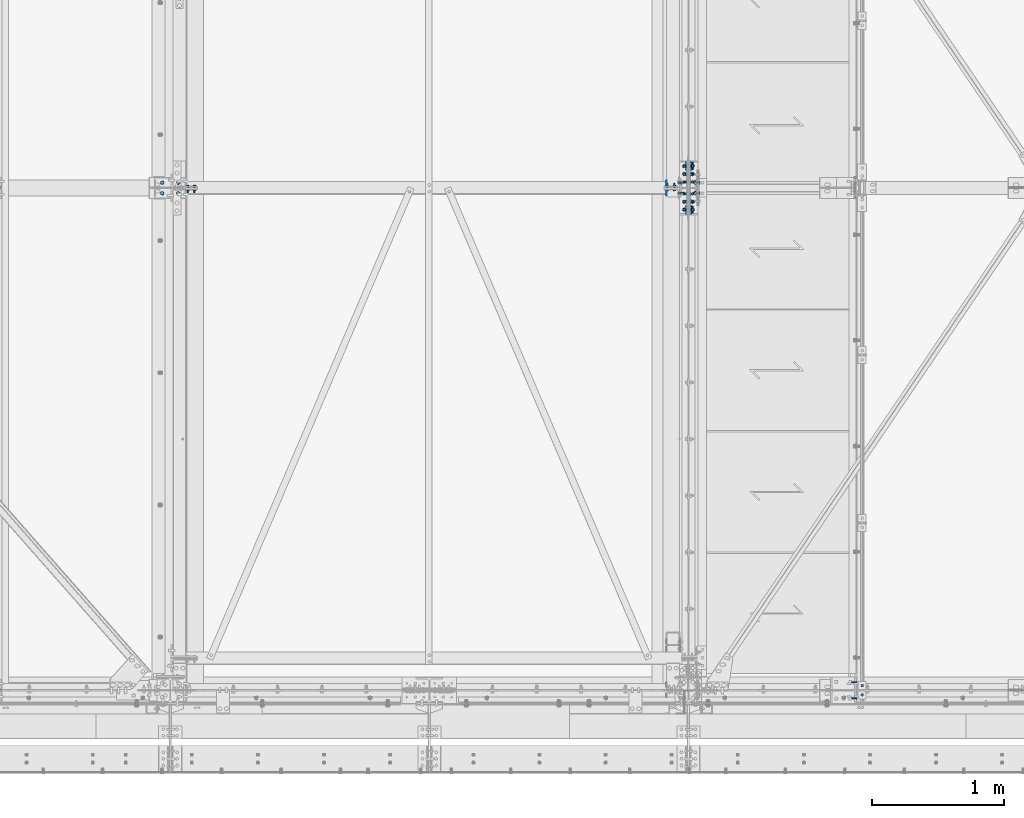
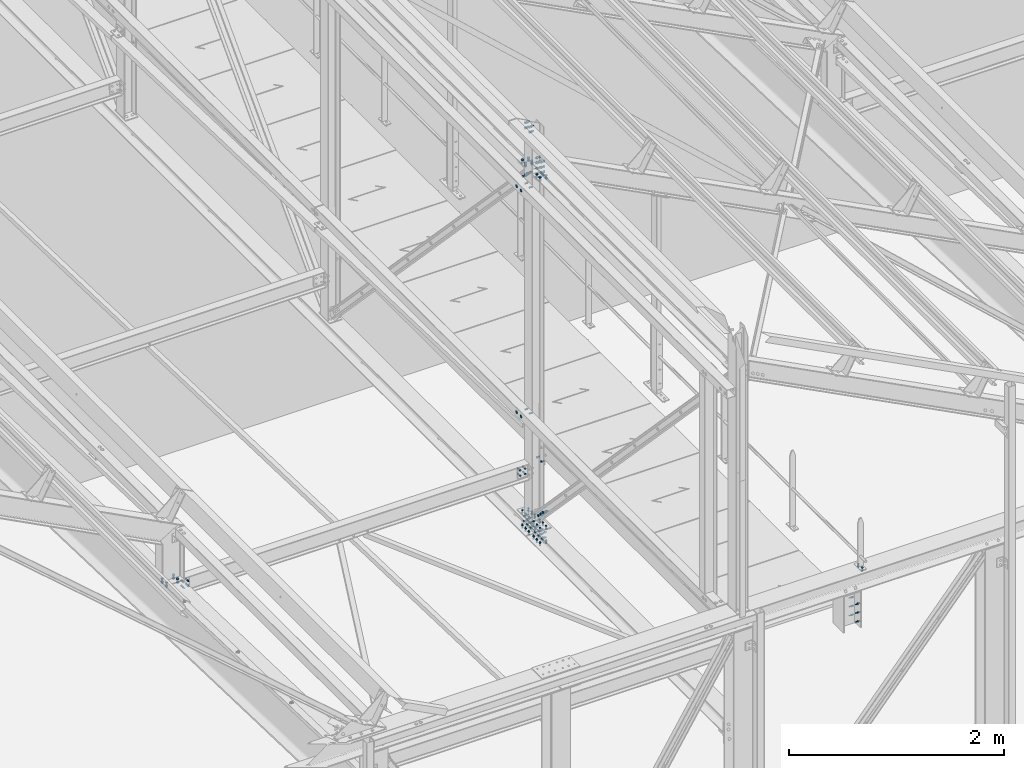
# One storey, part 164 of 362: 23 mechanical fasteners.
"""IFC2X3 building model written with IfcOpenShell, lengths in millimetres."""

from ifc_helpers import new_model, si_unit, frame, origin_with_axes, origin_2d_with_axis, place, context, subcontext, project, spatial, polyline, circle, outline, extrude, source, transform, mapped, material, type_object, element, save


model = new_model("IFC2X3")

# Units and contexts
model_context = context("Model", 3, precision=1e-05, world=origin_with_axes())
body_context = subcontext(model_context, "Body", "Model", "MODEL_VIEW")
ifc_project = project(units=[si_unit("LENGTHUNIT", "METRE", prefix="MILLI"), si_unit("AREAUNIT", "SQUARE_METRE"), si_unit("VOLUMEUNIT", "CUBIC_METRE"), si_unit("MASSUNIT", "GRAM", prefix="KILO"), si_unit("TIMEUNIT", "SECOND"), si_unit("PLANEANGLEUNIT", "RADIAN"), si_unit("SOLIDANGLEUNIT", "STERADIAN"), si_unit("THERMODYNAMICTEMPERATUREUNIT", "DEGREE_CELSIUS"), si_unit("LUMINOUSINTENSITYUNIT", "LUMEN")], contexts=[model_context])

# Site, building, storey
site_placement = place(None, origin_with_axes())
site = spatial("IfcSite", under=ifc_project, at=site_placement, Name="Undefined", CompositionType="ELEMENT")
building_placement = place(site_placement, origin_with_axes())
building = spatial("IfcBuilding", under=site, at=building_placement, Name="Undefined", CompositionType="ELEMENT")
storey_placement = place(building_placement, origin_with_axes())
storey = spatial("IfcBuildingStorey", under=building, at=storey_placement, Name="Undefined", CompositionType="ELEMENT", Elevation=0.0)

# Mechanical fasteners
ifc_material_1 = material(Name="6.8")
mechanical_fastener_type = type_object("IfcMechanicalFastenerType", Name="Bolt assembly")
shared_shape_1 = source(origin_with_axes(), body_context, "Body", "SweptSolid", [
    extrude(circle(Radius=15.0, at=origin_2d_with_axis()), frame((0.0, 0.0, 0.0), z_axis=(0.0, 1.0, 0.0), x_axis=(1.0, 0.0, 0.0)), (0.0, 0.0, 1.0), 4.1),
])
mechanical_fastener_1_placement = place(storey_placement, frame((23303.5000012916, 3800.0, 11070.0), z_axis=(0.0, 1.0, 0.0), x_axis=(0.0, 0.0, 1.0)))
element("IfcMechanicalFastener", 1, at=mechanical_fastener_1_placement, inside=storey, type_object=mechanical_fastener_type, material=ifc_material_1, Name="Bolt assembly", NominalDiameter=30.0, NominalLength=4.0, context=body_context, shape_type="MappedRepresentation", body=[
    mapped(shared_shape_1, transform((0.0, 0.0, 40.0))),
    mapped(shared_shape_1, transform((0.0, 0.0, -40.0))),
])
ifc_material_2 = material(Name="8.8-SB-ZINGUE")
shared_shape_2 = source(origin_with_axes(), body_context, "Body", "SweptSolid", [
    extrude(circle(Radius=9.0, at=origin_2d_with_axis()), frame((0.0, -10.9000000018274, 0.0), z_axis=(0.0, 1.0, 0.0), x_axis=(1.0, 0.0, 0.0)), (0.0, 0.0, 1.0), 6.0),
    extrude(circle(Radius=9.0, at=origin_2d_with_axis()), frame((0.0, 4.9000000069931, 0.0), z_axis=(0.0, 1.0, 0.0), x_axis=(1.0, 0.0, 0.0)), (0.0, 0.0, 1.0), 6.1),
    extrude(circle(Radius=9.0, at=origin_2d_with_axis()), frame((0.0, -3.99999923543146, 0.0), z_axis=(0.0, 1.0, 0.0), x_axis=(1.0, 0.0, 0.0)), (0.0, 0.0, 1.0), 8.0),
    extrude(outline(polyline([(13.85640646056, 0.0), (6.92820323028, 12.0000000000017), (-6.92820323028, 12.0000000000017), (-13.85640646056, 0.0), (-6.92820323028, -12.0000000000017), (6.92820323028, -12.0000000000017), (13.85640646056, 0.0)])), frame((0.0, -21.5600000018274, 0.0), z_axis=(0.0, 1.0, 0.0), x_axis=(1.0, 0.0, 0.0)), (0.0, 0.0, 1.0), 10.56),
    extrude(circle(Radius=8.0, at=origin_2d_with_axis()), frame((0.0, -11.0000000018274, 0.0), z_axis=(0.0, 1.0, 0.0), x_axis=(1.0, 0.0, 0.0)), (0.0, 0.0, 1.0), 50.0),
    extrude(outline(polyline([(15.3344231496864, 0.0), (7.6672115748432, 13.2800000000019), (-7.6672115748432, 13.2800000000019), (-15.3344231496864, 0.0), (-7.6672115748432, -13.2800000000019), (7.6672115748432, -13.2800000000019), (15.3344231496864, 0.0)])), frame((0.0, 11.0000000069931, 0.0), z_axis=(0.0, 1.0, 0.0), x_axis=(1.0, 0.0, 0.0)), (0.0, 0.0, 1.0), 10.56),
])
for number, where, z_axis, x_axis, name in (
    (2, (23470.0, 3903.50267417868, 11127.4311436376), (0.0, -0.723792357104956, -0.690017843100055), (0.0, 0.690017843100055, -0.723792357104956), "Bolt assembly"),
    (3, (23470.0, 3696.49740593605, 7358.56893210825), (0.0, 0.723792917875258, 0.690017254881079), (0.0, -0.690017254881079, 0.723792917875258), "Bolt assembly"),
):
    element("IfcMechanicalFastener", number, at=place(storey_placement, frame(where, z_axis=z_axis, x_axis=x_axis)), inside=storey, type_object=mechanical_fastener_type, material=ifc_material_2, Name=name, NominalDiameter=16.0, NominalLength=50.0, context=body_context, shape_type="MappedRepresentation", body=[
        mapped(shared_shape_2, transform((0.0, 0.0, 0.0))),
        mapped(shared_shape_2, transform((60.0, 0.0, 0.0))),
        mapped(shared_shape_2, transform((120.0, 0.0, 0.0))),
    ])
shared_shape_3 = source(origin_with_axes(), body_context, "Body", "SweptSolid", [
    extrude(circle(Radius=7.0, at=origin_2d_with_axis()), frame((0.0, -0.095374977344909, 0.0), z_axis=(0.0, 1.0, 0.0), x_axis=(1.0, 0.0, 0.0)), (0.0, 0.0, 1.0), 10.1),
    extrude(circle(Radius=7.0, at=origin_2d_with_axis()), frame((0.0, -9.9, 0.0), z_axis=(0.0, 1.0, 0.0), x_axis=(1.0, 0.0, 0.0)), (0.0, 0.0, 1.0), 10.0),
    extrude(outline(polyline([(10.39230484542, 0.0), (5.19615242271, 9.00000000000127), (-5.19615242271, 9.00000000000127), (-10.39230484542, 0.0), (-5.19615242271, -9.00000000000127), (5.19615242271, -9.00000000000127), (10.39230484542, 0.0)])), frame((0.0, -17.92, 0.0), z_axis=(0.0, 1.0, 0.0), x_axis=(1.0, 0.0, 0.0)), (0.0, 0.0, 1.0), 7.92),
    extrude(circle(Radius=6.0, at=origin_2d_with_axis()), frame((0.0, -10.0000010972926, 0.0), z_axis=(0.0, 1.0, 0.0), x_axis=(1.0, 0.0, 0.0)), (0.0, 0.0, 1.0), 40.0),
    extrude(outline(polyline([(11.5008173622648, 0.0), (5.7504086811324, 9.96000000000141), (-5.7504086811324, 9.96000000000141), (-11.5008173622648, 0.0), (-5.7504086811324, -9.96000000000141), (5.7504086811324, -9.96000000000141), (11.5008173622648, 0.0)])), frame((0.0, 10.0046250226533, 0.0), z_axis=(0.0, 1.0, 0.0), x_axis=(1.0, 0.0, 0.0)), (0.0, 0.0, 1.0), 7.92),
])
mechanical_fastener_2_placement = place(storey_placement, frame((24783.9915986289, -34.9999999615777, 8550.00000643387), z_axis=(-1.0, 0.0, 0.0), x_axis=(0.0, 1.0, 0.0)))
element("IfcMechanicalFastener", 4, at=mechanical_fastener_2_placement, inside=storey, type_object=mechanical_fastener_type, material=ifc_material_2, Name="Bolt assembly", NominalDiameter=12.0, NominalLength=40.0, context=body_context, shape_type="MappedRepresentation", body=[
    mapped(shared_shape_3, transform((0.0, 0.0, 0.0))),
    mapped(shared_shape_3, transform((70.0, -2.91038304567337e-11, 2.18278728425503e-10))),
])
shared_shape_4 = source(origin_with_axes(), body_context, "Body", "SweptSolid", [
    extrude(circle(Radius=7.0, at=origin_2d_with_axis()), frame((0.0, -0.100011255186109, 0.0), z_axis=(0.0, 1.0, 0.0), x_axis=(1.0, 0.0, 0.0)), (0.0, 0.0, 1.0), 8.6),
    extrude(circle(Radius=7.0, at=origin_2d_with_axis()), frame((0.0, -6.9, 0.0), z_axis=(0.0, 1.0, 0.0), x_axis=(1.0, 0.0, 0.0)), (0.0, 0.0, 1.0), 7.0),
    extrude(outline(polyline([(10.39230484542, 0.0), (5.19615242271, 9.00000000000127), (-5.19615242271, 9.00000000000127), (-10.39230484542, 0.0), (-5.19615242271, -9.00000000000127), (5.19615242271, -9.00000000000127), (10.39230484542, 0.0)])), frame((0.0, -14.92, 0.0), z_axis=(0.0, 1.0, 0.0), x_axis=(1.0, 0.0, 0.0)), (0.0, 0.0, 1.0), 7.92),
    extrude(circle(Radius=6.0, at=origin_2d_with_axis()), frame((0.0, -7.0, 0.0), z_axis=(0.0, 1.0, 0.0), x_axis=(1.0, 0.0, 0.0)), (0.0, 0.0, 1.0), 30.0),
    extrude(outline(polyline([(11.5008173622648, 0.0), (5.7504086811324, 9.96000000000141), (-5.7504086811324, 9.96000000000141), (-11.5008173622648, 0.0), (-5.7504086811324, -9.96000000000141), (5.7504086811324, -9.96000000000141), (11.5008173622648, 0.0)])), frame((0.0, 8.49999994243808, 0.0), z_axis=(0.0, 1.0, 0.0), x_axis=(1.0, 0.0, 0.0)), (0.0, 0.0, 1.0), 7.92),
])
mechanical_fastener_3_placement = place(storey_placement, frame((23536.5000012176, 3799.99999998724, 7910.00000000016), z_axis=(0.0, -1.0, 0.0), x_axis=(0.0, 0.0, 1.0)))
element("IfcMechanicalFastener", 5, at=mechanical_fastener_3_placement, inside=storey, type_object=mechanical_fastener_type, material=ifc_material_2, Name="Bolt assembly", NominalDiameter=12.0, NominalLength=30.0, context=body_context, shape_type="MappedRepresentation", body=[
    mapped(shared_shape_4, transform((0.0, 0.0, -40.0))),
    mapped(shared_shape_4, transform((0.0, 0.0, 40.0))),
])
shared_shape_5 = source(origin_with_axes(), body_context, "Body", "SweptSolid", [
    extrude(circle(Radius=7.0, at=origin_2d_with_axis()), frame((0.0, 0.0, 0.0), z_axis=(0.0, 1.0, 0.0), x_axis=(1.0, 0.0, 0.0)), (0.0, 0.0, 1.0), 10.1),
    extrude(outline(polyline([(10.39230484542, 0.0), (5.19615242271, 9.00000000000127), (-5.19615242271, 9.00000000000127), (-10.39230484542, 0.0), (-5.19615242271, -9.00000000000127), (5.19615242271, -9.00000000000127), (10.39230484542, 0.0)])), frame((0.0, -7.91999999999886, 0.0), z_axis=(0.0, 1.0, 0.0), x_axis=(1.0, 0.0, 0.0)), (0.0, 0.0, 1.0), 7.92),
    extrude(circle(Radius=6.0, at=origin_2d_with_axis()), frame((0.0, 0.0, 0.0), z_axis=(0.0, 1.0, 0.0), x_axis=(1.0, 0.0, 0.0)), (0.0, 0.0, 1.0), 40.0),
    extrude(outline(polyline([(11.5008173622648, 0.0), (5.7504086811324, 9.96000000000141), (-5.7504086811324, 9.96000000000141), (-11.5008173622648, 0.0), (-5.7504086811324, -9.96000000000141), (5.7504086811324, -9.96000000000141), (11.5008173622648, 0.0)])), frame((0.0, 10.0000000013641, 0.0), z_axis=(0.0, 1.0, 0.0), x_axis=(1.0, 0.0, 0.0)), (0.0, 0.0, 1.0), 7.92),
])
mechanical_fastener_4_placement = place(storey_placement, frame((24736.4916161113, 1.14541762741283e-07, 7990.00000000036), z_axis=(0.0, -1.0, 0.0), x_axis=(0.0, 0.0, 1.0)))
element("IfcMechanicalFastener", 6, at=mechanical_fastener_4_placement, inside=storey, type_object=mechanical_fastener_type, material=ifc_material_2, Name="Bolt assembly", NominalDiameter=12.0, NominalLength=40.0, context=body_context, shape_type="MappedRepresentation", body=[
    mapped(shared_shape_5, transform((0.0, 0.0, -60.0))),
    mapped(shared_shape_5, transform((99.9999999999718, 0.0, -60.0000000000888))),
    mapped(shared_shape_5, transform((199.999999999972, 0.0, -60.0000000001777))),
    mapped(shared_shape_5, transform((0.0, 0.0, 60.0))),
    mapped(shared_shape_5, transform((100.000000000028, 0.0, 59.9999999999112))),
    mapped(shared_shape_5, transform((200.000000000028, 0.0, 59.9999999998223))),
])
shared_shape_6 = source(origin_with_axes(), body_context, "Body", "SweptSolid", [
    extrude(circle(Radius=9.0, at=origin_2d_with_axis()), frame((0.0, -0.0985788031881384, 0.0), z_axis=(0.0, 1.0, 0.0), x_axis=(1.0, 0.0, 0.0)), (0.0, 0.0, 1.0), 17.3),
    extrude(circle(Radius=9.0, at=origin_2d_with_axis()), frame((0.0, -9.9, 0.0), z_axis=(0.0, 1.0, 0.0), x_axis=(1.0, 0.0, 0.0)), (0.0, 0.0, 1.0), 10.0),
    extrude(outline(polyline([(13.85640646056, 0.0), (6.92820323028, 12.0000000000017), (-6.92820323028, 12.0000000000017), (-13.85640646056, 0.0), (-6.92820323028, -12.0000000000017), (6.92820323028, -12.0000000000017), (13.85640646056, 0.0)])), frame((0.0, -20.5600000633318, 0.0), z_axis=(0.0, 1.0, 0.0), x_axis=(1.0, 0.0, 0.0)), (0.0, 0.0, 1.0), 10.56),
    extrude(circle(Radius=8.0, at=origin_2d_with_axis()), frame((0.0, -10.0000010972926, 0.0), z_axis=(0.0, 1.0, 0.0), x_axis=(1.0, 0.0, 0.0)), (0.0, 0.0, 1.0), 50.0),
    extrude(outline(polyline([(15.3344231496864, 0.0), (7.6672115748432, 13.2800000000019), (-7.6672115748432, 13.2800000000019), (-15.3344231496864, 0.0), (-7.6672115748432, -13.2800000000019), (7.6672115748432, -13.2800000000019), (15.3344231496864, 0.0)])), frame((0.0, 17.2014219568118, 0.0), z_axis=(0.0, 1.0, 0.0), x_axis=(1.0, 0.0, 0.0)), (0.0, 0.0, 1.0), 10.56),
])
mechanical_fastener_5_placement = place(storey_placement, frame((19550.0, 3759.70531343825, 7931.84792272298), z_axis=(-1.0, 0.0, 0.0), x_axis=(3.14103090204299e-11, 0.999506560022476, -0.0314107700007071)))
element("IfcMechanicalFastener", 7, at=mechanical_fastener_5_placement, inside=storey, type_object=mechanical_fastener_type, material=ifc_material_2, Name="Bolt assembly", NominalDiameter=16.0, NominalLength=50.0, context=body_context, shape_type="MappedRepresentation", body=[
    mapped(shared_shape_6, transform((0.0, 0.0, -60.0))),
    mapped(shared_shape_6, transform((80.0, 0.0, -60.0))),
    mapped(shared_shape_6, transform((0.0, 0.0, 60.0))),
    mapped(shared_shape_6, transform((80.0, 0.0, 60.0))),
])
shared_shape_7 = source(origin_with_axes(), body_context, "Body", "SweptSolid", [
    extrude(circle(Radius=9.0, at=origin_2d_with_axis()), frame((0.0, -0.091713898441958, 0.0), z_axis=(0.0, 1.0, 0.0), x_axis=(1.0, 0.0, 0.0)), (0.0, 0.0, 1.0), 8.6),
    extrude(circle(Radius=9.0, at=origin_2d_with_axis()), frame((0.0, -9.89171439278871, 0.0), z_axis=(0.0, 1.0, 0.0), x_axis=(1.0, 0.0, 0.0)), (0.0, 0.0, 1.0), 10.0),
    extrude(outline(polyline([(13.85640646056, 0.0), (6.92820323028, 12.0000000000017), (-6.92820323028, 12.0000000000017), (-13.85640646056, 0.0), (-6.92820323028, -12.0000000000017), (6.92820323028, -12.0000000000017), (13.85640646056, 0.0)])), frame((0.0, -20.5517143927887, 0.0), z_axis=(0.0, 1.0, 0.0), x_axis=(1.0, 0.0, 0.0)), (0.0, 0.0, 1.0), 10.56),
    extrude(circle(Radius=8.0, at=origin_2d_with_axis()), frame((0.0, -9.99171439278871, 0.0), z_axis=(0.0, 1.0, 0.0), x_axis=(1.0, 0.0, 0.0)), (0.0, 0.0, 1.0), 40.0),
    extrude(outline(polyline([(15.3344231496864, 0.0), (7.6672115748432, 13.2800000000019), (-7.6672115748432, 13.2800000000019), (-15.3344231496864, 0.0), (-7.6672115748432, -13.2800000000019), (7.6672115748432, -13.2800000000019), (15.3344231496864, 0.0)])), frame((0.0, 8.50828610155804, 0.0), z_axis=(0.0, 1.0, 0.0), x_axis=(1.0, 0.0, 0.0)), (0.0, 0.0, 1.0), 10.56),
])
mechanical_fastener_6_placement = place(storey_placement, frame((23536.5082856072, 3760.0, 11258.0026850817), z_axis=(0.0, 0.0, 1.0), x_axis=(0.0, 1.0, 0.0)))
element("IfcMechanicalFastener", 8, at=mechanical_fastener_6_placement, inside=storey, type_object=mechanical_fastener_type, material=ifc_material_2, Name="Bolt assembly", NominalDiameter=16.0, NominalLength=40.0, context=body_context, shape_type="MappedRepresentation", body=[
    mapped(shared_shape_7, transform((0.0, 0.0, -60.0))),
    mapped(shared_shape_7, transform((80.0, 0.0, -60.0))),
    mapped(shared_shape_7, transform((0.0, 0.0, 0.0))),
    mapped(shared_shape_7, transform((80.0, 0.0, 0.0))),
    mapped(shared_shape_7, transform((0.0, 0.0, 60.0))),
    mapped(shared_shape_7, transform((80.0, 0.0, 60.0))),
])
shared_shape_8 = source(origin_with_axes(), body_context, "Body", "SweptSolid", [
    extrude(circle(Radius=15.0, at=origin_2d_with_axis()), frame((0.0, -0.000130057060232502, 0.0), z_axis=(0.0, 1.0, 0.0), x_axis=(1.0, 0.0, 0.0)), (0.0, 0.0, 1.0), 4.1),
])
mechanical_fastener_7_placement = place(storey_placement, frame((23303.5001162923, 3800.0, 8500.0), z_axis=(0.0, -1.0, 0.0), x_axis=(0.0, 0.0, -1.0)))
element("IfcMechanicalFastener", 9, at=mechanical_fastener_7_placement, inside=storey, type_object=mechanical_fastener_type, material=ifc_material_1, Name="Bolt assembly", NominalDiameter=30.0, NominalLength=4.0, context=body_context, shape_type="MappedRepresentation", body=[
    mapped(shared_shape_8, transform((0.0, 0.0, -40.0))),
    mapped(shared_shape_8, transform((0.0, 0.0, 40.0))),
])
shared_shape_9 = source(origin_with_axes(), body_context, "Body", "SweptSolid", [
    extrude(circle(Radius=7.0, at=origin_2d_with_axis()), frame((0.0, -3.90012822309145, 0.0), z_axis=(0.0, 1.0, 0.0), x_axis=(1.0, 0.0, 0.0)), (0.0, 0.0, 1.0), 4.0),
    extrude(circle(Radius=7.0, at=origin_2d_with_axis()), frame((0.0, -0.10007666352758, 0.0), z_axis=(0.0, 1.0, 0.0), x_axis=(1.0, 0.0, 0.0)), (0.0, 0.0, 1.0), 8.6),
    extrude(outline(polyline([(10.39230484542, 0.0), (5.19615242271, 9.00000000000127), (-5.19615242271, 9.00000000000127), (-10.39230484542, 0.0), (-5.19615242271, -9.00000000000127), (5.19615242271, -9.00000000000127), (10.39230484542, 0.0)])), frame((0.0, -11.9201282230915, 0.0), z_axis=(0.0, 1.0, 0.0), x_axis=(1.0, 0.0, 0.0)), (0.0, 0.0, 1.0), 7.92),
    extrude(circle(Radius=6.0, at=origin_2d_with_axis()), frame((0.0, -4.00012822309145, 0.0), z_axis=(0.0, 1.0, 0.0), x_axis=(1.0, 0.0, 0.0)), (0.0, 0.0, 1.0), 30.0),
    extrude(outline(polyline([(11.5008173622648, 0.0), (5.7504086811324, 9.96000000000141), (-5.7504086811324, 9.96000000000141), (-11.5008173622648, 0.0), (-5.7504086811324, -9.96000000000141), (5.7504086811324, -9.96000000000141), (11.5008173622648, 0.0)])), frame((0.0, 8.49988372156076, 0.0), z_axis=(0.0, 1.0, 0.0), x_axis=(1.0, 0.0, 0.0)), (0.0, 0.0, 1.0), 7.92),
])
mechanical_fastener_8_placement = place(storey_placement, frame((23403.5001162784, 3800.0, 8500.00000188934), z_axis=(0.0, -1.0, 0.0), x_axis=(0.0, 0.0, -1.0)))
element("IfcMechanicalFastener", 10, at=mechanical_fastener_8_placement, inside=storey, type_object=mechanical_fastener_type, material=ifc_material_2, Name="Bolt assembly", NominalDiameter=12.0, NominalLength=30.0, context=body_context, shape_type="MappedRepresentation", body=[
    mapped(shared_shape_9, transform((0.0, 0.0, -40.0))),
    mapped(shared_shape_9, transform((0.0, 0.0, 40.0))),
])
shared_shape_10 = source(origin_with_axes(), body_context, "Body", "SweptSolid", [
    extrude(circle(Radius=7.0, at=origin_2d_with_axis()), frame((0.0, -3.89999843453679, 0.0), z_axis=(0.0, 1.0, 0.0), x_axis=(1.0, 0.0, 0.0)), (0.0, 0.0, 1.0), 4.0),
    extrude(circle(Radius=7.0, at=origin_2d_with_axis()), frame((0.0, -0.100011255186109, 0.0), z_axis=(0.0, 1.0, 0.0), x_axis=(1.0, 0.0, 0.0)), (0.0, 0.0, 1.0), 8.6),
    extrude(outline(polyline([(10.39230484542, 0.0), (5.19615242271, 9.00000000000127), (-5.19615242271, 9.00000000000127), (-10.39230484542, 0.0), (-5.19615242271, -9.00000000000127), (5.19615242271, -9.00000000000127), (10.39230484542, 0.0)])), frame((0.0, -11.9199984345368, 0.0), z_axis=(0.0, 1.0, 0.0), x_axis=(1.0, 0.0, 0.0)), (0.0, 0.0, 1.0), 7.92),
    extrude(circle(Radius=6.0, at=origin_2d_with_axis()), frame((0.0, -3.99999923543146, 0.0), z_axis=(0.0, 1.0, 0.0), x_axis=(1.0, 0.0, 0.0)), (0.0, 0.0, 1.0), 30.0),
    extrude(outline(polyline([(11.5008173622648, 0.0), (5.7504086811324, 9.96000000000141), (-5.7504086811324, 9.96000000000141), (-11.5008173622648, 0.0), (-5.7504086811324, -9.96000000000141), (5.7504086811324, -9.96000000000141), (11.5008173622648, 0.0)])), frame((0.0, 8.49999994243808, 0.0), z_axis=(0.0, 1.0, 0.0), x_axis=(1.0, 0.0, 0.0)), (0.0, 0.0, 1.0), 7.92),
])
mechanical_fastener_9_placement = place(storey_placement, frame((23403.5000012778, 3800.0, 11069.9999981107), z_axis=(0.0, 1.0, 0.0), x_axis=(0.0, 0.0, 1.0)))
element("IfcMechanicalFastener", 11, at=mechanical_fastener_9_placement, inside=storey, type_object=mechanical_fastener_type, material=ifc_material_2, Name="Bolt assembly", NominalDiameter=12.0, NominalLength=30.0, context=body_context, shape_type="MappedRepresentation", body=[
    mapped(shared_shape_10, transform((0.0, 0.0, -40.0))),
    mapped(shared_shape_10, transform((0.0, 0.0, 40.0))),
])
shared_shape_11 = source(origin_with_axes(), body_context, "Body", "SweptSolid", [
    extrude(circle(Radius=9.0, at=origin_2d_with_axis()), frame((0.0, -0.100011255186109, 0.0), z_axis=(0.0, 1.0, 0.0), x_axis=(1.0, 0.0, 0.0)), (0.0, 0.0, 1.0), 8.6),
    extrude(circle(Radius=9.0, at=origin_2d_with_axis()), frame((0.0, -2.9, 0.0), z_axis=(0.0, 1.0, 0.0), x_axis=(1.0, 0.0, 0.0)), (0.0, 0.0, 1.0), 3.0),
    extrude(outline(polyline([(13.85640646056, 0.0), (6.92820323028, 12.0000000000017), (-6.92820323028, 12.0000000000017), (-13.85640646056, 0.0), (-6.92820323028, -12.0000000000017), (6.92820323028, -12.0000000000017), (13.85640646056, 0.0)])), frame((0.0, -13.56, 0.0), z_axis=(0.0, 1.0, 0.0), x_axis=(1.0, 0.0, 0.0)), (0.0, 0.0, 1.0), 10.56),
    extrude(circle(Radius=8.0, at=origin_2d_with_axis()), frame((0.0, -2.99999932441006, 0.0), z_axis=(0.0, 1.0, 0.0), x_axis=(1.0, 0.0, 0.0)), (0.0, 0.0, 1.0), 40.0),
    extrude(outline(polyline([(15.3344231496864, 0.0), (7.6672115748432, 13.2800000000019), (-7.6672115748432, 13.2800000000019), (-15.3344231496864, 0.0), (-7.6672115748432, -13.2800000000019), (7.6672115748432, -13.2800000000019), (15.3344231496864, 0.0)])), frame((0.0, 8.49999994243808, 0.0), z_axis=(0.0, 1.0, 0.0), x_axis=(1.0, 0.0, 0.0)), (0.0, 0.0, 1.0), 10.56),
])
for number, where, z_axis, x_axis, name in (
    (12, (23403.49999895, 3839.99695097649, 11701.409878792), (0.0, 1.0, 0.0), (0.0, 0.0, 1.0), "Bolt assembly"),
    (13, (23403.49999895, 3759.99999584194, 11701.409878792), (0.0, 1.0, 0.0), (0.0, 0.0, 1.0), "Bolt assembly"),
):
    element("IfcMechanicalFastener", number, at=place(storey_placement, frame(where, z_axis=z_axis, x_axis=x_axis)), inside=storey, type_object=mechanical_fastener_type, material=ifc_material_2, Name=name, NominalDiameter=16.0, NominalLength=40.0, context=body_context, shape_type="MappedRepresentation", body=[
        mapped(shared_shape_11, transform((0.0, 0.0, 0.0))),
        mapped(shared_shape_11, transform((60.0, 0.0, 0.0))),
    ])
shared_shape_12 = source(origin_with_axes(), body_context, "Body", "SweptSolid", [
    extrude(circle(Radius=7.0, at=origin_2d_with_axis()), frame((0.0, -2.64402363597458, 0.0), z_axis=(0.0, 1.0, 0.0), x_axis=(1.0, 0.0, 0.0)), (0.0, 0.0, 1.0), 5.3),
    extrude(circle(Radius=7.0, at=origin_2d_with_axis()), frame((0.0, 2.90038411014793, 0.0), z_axis=(0.0, 1.0, 0.0), x_axis=(1.0, 0.0, 0.0)), (0.0, 0.0, 1.0), 10.1),
    extrude(circle(Radius=7.0, at=origin_2d_with_axis()), frame((0.0, -12.9004311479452, 0.0), z_axis=(0.0, 1.0, 0.0), x_axis=(1.0, 0.0, 0.0)), (0.0, 0.0, 1.0), 10.0),
    extrude(outline(polyline([(10.39230484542, 0.0), (5.19615242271, 9.00000000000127), (-5.19615242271, 9.00000000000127), (-10.39230484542, 0.0), (-5.19615242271, -9.00000000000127), (5.19615242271, -9.00000000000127), (10.39230484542, 0.0)])), frame((0.0, -20.9204311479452, 0.0), z_axis=(0.0, 1.0, 0.0), x_axis=(1.0, 0.0, 0.0)), (0.0, 0.0, 1.0), 7.92),
    extrude(circle(Radius=6.0, at=origin_2d_with_axis()), frame((0.0, -13.0004311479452, 0.0), z_axis=(0.0, 1.0, 0.0), x_axis=(1.0, 0.0, 0.0)), (0.0, 0.0, 1.0), 50.0),
    extrude(outline(polyline([(11.5008173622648, 0.0), (5.7504086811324, 9.96000000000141), (-5.7504086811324, 9.96000000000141), (-11.5008173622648, 0.0), (-5.7504086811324, -9.96000000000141), (5.7504086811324, -9.96000000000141), (11.5008173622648, 0.0)])), frame((0.0, 13.0004311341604, 0.0), z_axis=(0.0, 1.0, 0.0), x_axis=(1.0, 0.0, 0.0)), (0.0, 0.0, 1.0), 7.92),
])
mechanical_fastener_10_placement = place(storey_placement, frame((19733.0, 3800.00599339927, 7840.5357388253), z_axis=(7.58071938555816e-11, 0.0314107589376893, 0.999506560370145), x_axis=(-1.0, 0.0, 0.0)))
element("IfcMechanicalFastener", 14, at=mechanical_fastener_10_placement, inside=storey, type_object=mechanical_fastener_type, material=ifc_material_2, Name="Bolt assembly", NominalDiameter=12.0, NominalLength=50.0, context=body_context, shape_type="MappedRepresentation", body=[
    mapped(shared_shape_12, transform((0.0, 0.0, -30.0))),
    mapped(shared_shape_12, transform((49.9999999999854, 1.98269844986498e-10, -29.9999999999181))),
    mapped(shared_shape_12, transform((0.0, 0.0, 30.0))),
    mapped(shared_shape_12, transform((50.0000000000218, 1.44154910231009e-10, 30.0000000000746))),
])
shared_shape_13 = source(origin_with_axes(), body_context, "Body", "SweptSolid", [
    extrude(circle(Radius=7.0, at=origin_2d_with_axis()), frame((0.0, -2.65018567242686, 0.0), z_axis=(0.0, 1.0, 0.0), x_axis=(1.0, 0.0, 0.0)), (0.0, 0.0, 1.0), 5.3),
    extrude(circle(Radius=7.0, at=origin_2d_with_axis()), frame((0.0, -12.9001594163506, 0.0), z_axis=(0.0, 1.0, 0.0), x_axis=(1.0, 0.0, 0.0)), (0.0, 0.0, 1.0), 10.0),
    extrude(circle(Radius=7.0, at=origin_2d_with_axis()), frame((0.0, 2.90070287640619, 0.0), z_axis=(0.0, 1.0, 0.0), x_axis=(1.0, 0.0, 0.0)), (0.0, 0.0, 1.0), 10.1),
    extrude(outline(polyline([(10.39230484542, 0.0), (5.19615242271, 9.00000000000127), (-5.19615242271, 9.00000000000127), (-10.39230484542, 0.0), (-5.19615242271, -9.00000000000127), (5.19615242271, -9.00000000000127), (10.39230484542, 0.0)])), frame((0.0, -20.9201594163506, 0.0), z_axis=(0.0, 1.0, 0.0), x_axis=(1.0, 0.0, 0.0)), (0.0, 0.0, 1.0), 7.92),
    extrude(circle(Radius=6.0, at=origin_2d_with_axis()), frame((0.0, -13.0001594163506, 0.0), z_axis=(0.0, 1.0, 0.0), x_axis=(1.0, 0.0, 0.0)), (0.0, 0.0, 1.0), 50.0),
    extrude(outline(polyline([(11.5008173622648, 0.0), (5.7504086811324, 9.96000000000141), (-5.7504086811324, 9.96000000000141), (-11.5008173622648, 0.0), (-5.7504086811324, -9.96000000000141), (5.7504086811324, -9.96000000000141), (11.5008173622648, 0.0)])), frame((0.0, 13.0007028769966, 0.0), z_axis=(0.0, 1.0, 0.0), x_axis=(1.0, 0.0, 0.0)), (0.0, 0.0, 1.0), 7.92),
])
mechanical_fastener_11_placement = place(storey_placement, frame((23308.4999999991, 3800.00019985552, 7840.53574582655), z_axis=(7.58071938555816e-11, 0.0314107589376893, 0.999506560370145), x_axis=(0.999999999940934, -1.08559999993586e-05, 5.27999997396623e-07)))
element("IfcMechanicalFastener", 15, at=mechanical_fastener_11_placement, inside=storey, type_object=mechanical_fastener_type, material=ifc_material_2, Name="Bolt assembly", NominalDiameter=12.0, NominalLength=50.0, context=body_context, shape_type="MappedRepresentation", body=[
    mapped(shared_shape_13, transform((0.0, 0.0, -30.0))),
    mapped(shared_shape_13, transform((55.0000000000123, 3.45607986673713e-11, -30.0000000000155))),
    mapped(shared_shape_13, transform((0.0, 0.0, 30.0))),
    mapped(shared_shape_13, transform((54.9999999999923, 3.45607986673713e-11, 29.9999999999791))),
])
shared_shape_14 = source(origin_with_axes(), body_context, "Body", "SweptSolid", [
    extrude(circle(Radius=9.0, at=origin_2d_with_axis()), frame((0.0, -8.40001950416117, 0.0), z_axis=(0.0, 1.0, 0.0), x_axis=(1.0, 0.0, 0.0)), (0.0, 0.0, 1.0), 8.5),
    extrude(circle(Radius=9.0, at=origin_2d_with_axis()), frame((0.0, -0.100011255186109, 0.0), z_axis=(0.0, 1.0, 0.0), x_axis=(1.0, 0.0, 0.0)), (0.0, 0.0, 1.0), 10.1),
    extrude(outline(polyline([(13.85640646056, 0.0), (6.92820323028, 12.0000000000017), (-6.92820323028, 12.0000000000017), (-13.85640646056, 0.0), (-6.92820323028, -12.0000000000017), (6.92820323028, -12.0000000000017), (13.85640646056, 0.0)])), frame((0.0, -19.0599999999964, 0.0), z_axis=(0.0, 1.0, 0.0), x_axis=(1.0, 0.0, 0.0)), (0.0, 0.0, 1.0), 10.56),
    extrude(circle(Radius=8.0, at=origin_2d_with_axis()), frame((0.0, -8.5, 0.0), z_axis=(0.0, 1.0, 0.0), x_axis=(1.0, 0.0, 0.0)), (0.0, 0.0, 1.0), 40.0),
    extrude(outline(polyline([(15.3344231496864, 0.0), (7.6672115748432, 13.2800000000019), (-7.6672115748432, 13.2800000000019), (-15.3344231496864, 0.0), (-7.6672115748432, -13.2800000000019), (7.6672115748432, -13.2800000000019), (15.3344231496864, 0.0)])), frame((0.0, 10.0000000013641, 0.0), z_axis=(0.0, 1.0, 0.0), x_axis=(1.0, 0.0, 0.0)), (0.0, 0.0, 1.0), 10.56),
])
mechanical_fastener_12_placement = place(storey_placement, frame((23470.0000000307, 3694.99692211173, 11236.0), z_axis=(1.0, 0.0, 0.0), x_axis=(0.0, -1.0, 0.0)))
element("IfcMechanicalFastener", 16, at=mechanical_fastener_12_placement, inside=storey, type_object=mechanical_fastener_type, material=ifc_material_2, Name="Bolt assembly", NominalDiameter=16.0, NominalLength=40.0, context=body_context, shape_type="MappedRepresentation", body=[
    mapped(shared_shape_14, transform((0.0, 0.0, 32.5))),
    mapped(shared_shape_14, transform((60.0, 0.0, 32.5))),
    mapped(shared_shape_14, transform((0.0, 0.0, -32.5))),
    mapped(shared_shape_14, transform((60.0, 0.0, -32.5))),
])
mechanical_fastener_13_placement = place(storey_placement, frame((23470.0000000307, 3905.0, 11236.0), z_axis=(-1.0, 0.0, 0.0), x_axis=(0.0, 1.0, 0.0)))
element("IfcMechanicalFastener", 17, at=mechanical_fastener_13_placement, inside=storey, type_object=mechanical_fastener_type, material=ifc_material_2, Name="Bolt assembly", NominalDiameter=16.0, NominalLength=40.0, context=body_context, shape_type="MappedRepresentation", body=[
    mapped(shared_shape_14, transform((0.0, 0.0, -32.5))),
    mapped(shared_shape_14, transform((60.0, 0.0, -32.5))),
    mapped(shared_shape_14, transform((0.0, 0.0, 32.5))),
    mapped(shared_shape_14, transform((60.0, 0.0, 32.5))),
])
shared_shape_15 = source(origin_with_axes(), body_context, "Body", "SweptSolid", [
    extrude(circle(Radius=6.0, at=origin_2d_with_axis()), frame((0.0, -0.10007666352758, 0.0), z_axis=(0.0, 1.0, 0.0), x_axis=(1.0, 0.0, 0.0)), (0.0, 0.0, 1.0), 9.6),
    extrude(circle(Radius=6.0, at=origin_2d_with_axis()), frame((0.0, -9.9, 0.0), z_axis=(0.0, 1.0, 0.0), x_axis=(1.0, 0.0, 0.0)), (0.0, 0.0, 1.0), 10.0),
    extrude(outline(polyline([(10.39230484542, 0.0), (5.19615242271, 9.00000000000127), (-5.19615242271, 9.00000000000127), (-10.39230484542, 0.0), (-5.19615242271, -9.00000000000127), (5.19615242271, -9.00000000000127), (10.39230484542, 0.0)])), frame((0.0, -17.92, 0.0), z_axis=(0.0, 1.0, 0.0), x_axis=(1.0, 0.0, 0.0)), (0.0, 0.0, 1.0), 7.92),
    extrude(circle(Radius=6.0, at=origin_2d_with_axis()), frame((0.0, -10.0000010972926, 0.0), z_axis=(0.0, 1.0, 0.0), x_axis=(1.0, 0.0, 0.0)), (0.0, 0.0, 1.0), 40.0),
    extrude(outline(polyline([(11.5008173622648, 0.0), (5.7504086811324, 9.96000000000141), (-5.7504086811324, 9.96000000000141), (-11.5008173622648, 0.0), (-5.7504086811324, -9.96000000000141), (5.7504086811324, -9.96000000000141), (11.5008173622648, 0.0)])), frame((0.0, 9.50000815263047, 0.0), z_axis=(0.0, 1.0, 0.0), x_axis=(1.0, 0.0, 0.0)), (0.0, 0.0, 1.0), 7.92),
])
mechanical_fastener_14_placement = place(storey_placement, frame((23470.0, 3635.00000000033, 7079.00003157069), z_axis=(1.0, 0.0, 0.0), x_axis=(0.0, 1.0, 0.0)))
element("IfcMechanicalFastener", 18, at=mechanical_fastener_14_placement, inside=storey, type_object=mechanical_fastener_type, material=ifc_material_2, Name="Bolt assembly", NominalDiameter=12.0, NominalLength=40.0, context=body_context, shape_type="MappedRepresentation", body=[
    mapped(shared_shape_15, transform((0.0, 0.0, 32.5))),
    mapped(shared_shape_15, transform((60.0, 0.0, 32.5))),
    mapped(shared_shape_15, transform((120.0, 0.0, 32.5))),
    mapped(shared_shape_15, transform((0.0, 0.0, -32.5))),
    mapped(shared_shape_15, transform((60.0, 0.0, -32.5))),
    mapped(shared_shape_15, transform((120.0, 0.0, -32.5))),
])
for number, where, z_axis, x_axis, name in (
    (19, (23470.0, 3964.99692211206, 7079.00003157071), (-1.0, 0.0, 0.0), (0.0, -1.0, 0.0), "Bolt assembly"),
    (20, (23470.0, 3635.00000000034, 7249.99996842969), (-1.0, 0.0, 0.0), (0.0, 1.0, 0.0), "Bolt assembly"),
):
    element("IfcMechanicalFastener", number, at=place(storey_placement, frame(where, z_axis=z_axis, x_axis=x_axis)), inside=storey, type_object=mechanical_fastener_type, material=ifc_material_2, Name=name, NominalDiameter=12.0, NominalLength=40.0, context=body_context, shape_type="MappedRepresentation", body=[
        mapped(shared_shape_15, transform((0.0, 0.0, -32.5))),
        mapped(shared_shape_15, transform((60.0, 0.0, -32.5))),
        mapped(shared_shape_15, transform((120.0, 0.0, -32.5))),
        mapped(shared_shape_15, transform((0.0, 0.0, 32.5))),
        mapped(shared_shape_15, transform((60.0, 0.0, 32.5))),
        mapped(shared_shape_15, transform((120.0, 0.0, 32.5))),
    ])
mechanical_fastener_15_placement = place(storey_placement, frame((23470.0, 3964.99692211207, 7249.9999684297), z_axis=(1.0, 0.0, 0.0), x_axis=(0.0, -1.0, 0.0)))
element("IfcMechanicalFastener", 21, at=mechanical_fastener_15_placement, inside=storey, type_object=mechanical_fastener_type, material=ifc_material_2, Name="Bolt assembly", NominalDiameter=12.0, NominalLength=40.0, context=body_context, shape_type="MappedRepresentation", body=[
    mapped(shared_shape_15, transform((0.0, 0.0, 32.5))),
    mapped(shared_shape_15, transform((60.0, 0.0, 32.5))),
    mapped(shared_shape_15, transform((120.0, 0.0, 32.5))),
    mapped(shared_shape_15, transform((0.0, 0.0, -32.5))),
    mapped(shared_shape_15, transform((60.0, 0.0, -32.5))),
    mapped(shared_shape_15, transform((120.0, 0.0, -32.5))),
])
shared_shape_16 = source(origin_with_axes(), body_context, "Body", "SweptSolid", [
    extrude(circle(Radius=6.0, at=origin_2d_with_axis()), frame((0.0, -2.99999932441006, 0.0), z_axis=(0.0, 1.0, 0.0), x_axis=(1.0, 0.0, 0.0)), (0.0, 0.0, 1.0), 6.0),
    extrude(circle(Radius=6.0, at=origin_2d_with_axis()), frame((0.0, -12.9000010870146, 0.0), z_axis=(0.0, 1.0, 0.0), x_axis=(1.0, 0.0, 0.0)), (0.0, 0.0, 1.0), 10.0),
    extrude(circle(Radius=6.0, at=origin_2d_with_axis()), frame((0.0, 2.90000527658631, 0.0), z_axis=(0.0, 1.0, 0.0), x_axis=(1.0, 0.0, 0.0)), (0.0, 0.0, 1.0), 10.1),
    extrude(outline(polyline([(10.39230484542, 0.0), (5.19615242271, 9.00000000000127), (-5.19615242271, 9.00000000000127), (-10.39230484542, 0.0), (-5.19615242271, -9.00000000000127), (5.19615242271, -9.00000000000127), (10.39230484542, 0.0)])), frame((0.0, -20.9200027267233, 0.0), z_axis=(0.0, 1.0, 0.0), x_axis=(1.0, 0.0, 0.0)), (0.0, 0.0, 1.0), 7.92),
    extrude(circle(Radius=6.0, at=origin_2d_with_axis()), frame((0.0, -13.0000000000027, 0.0), z_axis=(0.0, 1.0, 0.0), x_axis=(1.0, 0.0, 0.0)), (0.0, 0.0, 1.0), 50.0),
    extrude(outline(polyline([(11.5008173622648, 0.0), (5.7504086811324, 9.96000000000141), (-5.7504086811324, 9.96000000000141), (-11.5008173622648, 0.0), (-5.7504086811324, -9.96000000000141), (5.7504086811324, -9.96000000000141), (11.5008173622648, 0.0)])), frame((0.0, 13.0000006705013, 0.0), z_axis=(0.0, 1.0, 0.0), x_axis=(1.0, 0.0, 0.0)), (0.0, 0.0, 1.0), 7.92),
])
for number, where, z_axis, x_axis, name in (
    (22, (23470.0, 3635.00000000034, 7164.50000000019), (0.0, 0.0, -1.0), (0.0, 1.0, 0.0), "Bolt assembly"),
    (23, (23470.0, 3965.00000000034, 7164.5000000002), (0.0, 0.0, 1.0), (0.0, -1.0, 0.0), "Bolt assembly"),
):
    element("IfcMechanicalFastener", number, at=place(storey_placement, frame(where, z_axis=z_axis, x_axis=x_axis)), inside=storey, type_object=mechanical_fastener_type, material=ifc_material_2, Name=name, NominalDiameter=12.0, NominalLength=50.0, context=body_context, shape_type="MappedRepresentation", body=[
        mapped(shared_shape_16, transform((0.0, 0.0, -30.0))),
        mapped(shared_shape_16, transform((60.0, 0.0, -30.0))),
        mapped(shared_shape_16, transform((120.0, 0.0, -30.0))),
        mapped(shared_shape_16, transform((0.0, 0.0, 30.0))),
        mapped(shared_shape_16, transform((60.0, 0.0, 30.0))),
        mapped(shared_shape_16, transform((120.0, 0.0, 30.0))),
    ])

save(model, "model.ifc")
